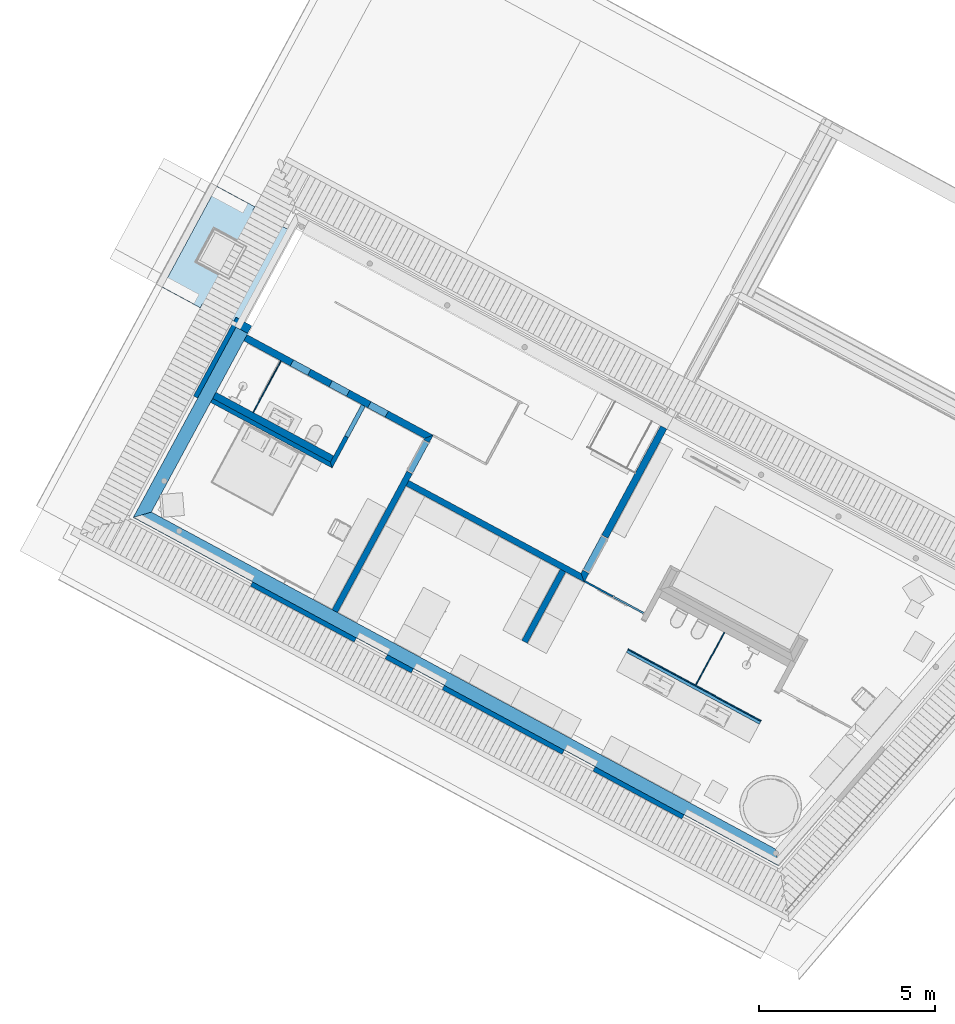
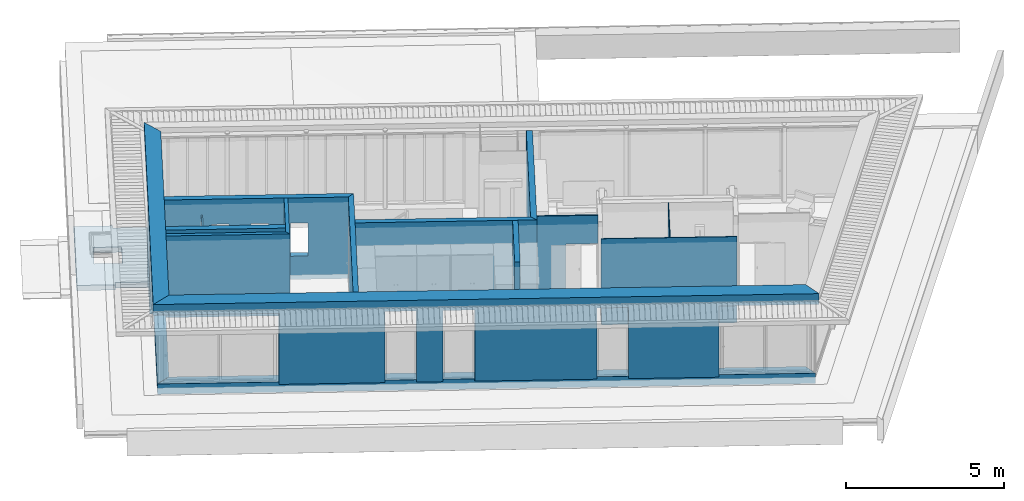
# One storey, part 3 of 41: 17 walls, 1 slab, 15 openings.
"""IFC2X3 building model written with IfcOpenShell, lengths in metres."""

from ifc_helpers import new_model, entity, si_unit, converted_unit, derived_unit, money_unit, direction, frame, origin_with_axes, origin_2d_with_axis, place, context, subcontext, project, spatial, polyline, rectangle, outline, extrude, boolean, faceted_brep, material, layer, layer_set, layer_usage, type_object, element, save


model = new_model("IFC2X3")

# Units and contexts
model_context = context("Model", 3, precision=1e-05, world=origin_with_axes(), true_north=direction((0.0, 1.0)))
body_context = subcontext(model_context, "Body", "Model", "MODEL_VIEW")
ifc_project = project(units=[si_unit("LENGTHUNIT", "METRE"), si_unit("AREAUNIT", "SQUARE_METRE"), si_unit("VOLUMEUNIT", "CUBIC_METRE"), converted_unit("PLANEANGLEUNIT", "DEGREE", entity("IfcPlaneAngleMeasure", 0.0174532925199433), si_unit("PLANEANGLEUNIT", "RADIAN"), dimensions=[0, 0, 0, 0, 0, 0, 0]), money_unit("EUR"), converted_unit("TIMEUNIT", "Year", entity("IfcTimeMeasure", 31556926.0), si_unit("TIMEUNIT", "SECOND"), dimensions=[0, 0, 1, 0, 0, 0, 0]), si_unit("MASSUNIT", "GRAM", prefix="KILO"), si_unit("THERMODYNAMICTEMPERATUREUNIT", "DEGREE_CELSIUS"), si_unit("LUMINOUSINTENSITYUNIT", "LUMEN"), si_unit("ENERGYUNIT", "JOULE", prefix="MEGA"), derived_unit("THERMALCONDUCTANCEUNIT", [(si_unit("POWERUNIT", "WATT"), 1), (si_unit("LENGTHUNIT", "METRE"), -1), (si_unit("THERMODYNAMICTEMPERATUREUNIT", "KELVIN"), -1)]), derived_unit("SPECIFICHEATCAPACITYUNIT", [(si_unit("ENERGYUNIT", "JOULE"), 1), (si_unit("MASSUNIT", "GRAM", prefix="KILO"), -1), (si_unit("THERMODYNAMICTEMPERATUREUNIT", "KELVIN"), -1)]), derived_unit("MASSDENSITYUNIT", [(si_unit("MASSUNIT", "GRAM", prefix="KILO"), 1), (si_unit("VOLUMEUNIT", "CUBIC_METRE"), -1)])], contexts=[model_context])

# Site, building, storey
site_placement = place(None, frame((-3.949935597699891, 1.740105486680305, 0.0), z_axis=(0.0, 0.0, 1.0), x_axis=(0.8799804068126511, -0.475009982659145, 0.0)))
site = spatial("IfcSite", under=ifc_project, at=site_placement, Name="Gelände", CompositionType="ELEMENT")
building_placement = place(site_placement, origin_with_axes())
building = spatial("IfcBuilding", under=site, at=building_placement, Name="Gebäude", CompositionType="ELEMENT")
storey_placement = place(building_placement, frame((0.0, 0.0, 4.55), z_axis=(0.0, 0.0, 1.0), x_axis=(1.0, 0.0, 0.0)))
storey = spatial("IfcBuildingStorey", under=building, at=storey_placement, Name="Staffelgeschoss", CompositionType="ELEMENT", Elevation=4.55)

# Slab
ifc_material_1 = material(Name="_SIWH - Beton, Stahlbeton")
ifc_layer_1 = layer(ifc_material_1, 0.2, ventilated="UNKNOWN")
ifc_layer_set_1 = layer_set([ifc_layer_1], Name="_SIWH - Beton, Stahlbeton 0.2")
ifc_layer_usage_1 = layer_usage(ifc_layer_set_1, "AXIS3", "NEGATIVE", 0.2)
slab_type = type_object("IfcSlabType", Name="_SIWH - Beton, Stahlbeton 200", PredefinedType="FLOOR")
slab_placement = place(storey_placement, frame((2.837485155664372, 7.393058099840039, -0.4500000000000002), z_axis=(0.0, 0.0, 1.0), x_axis=(1.0, 0.0, 0.0)))
element("IfcSlab", 1, at=slab_placement, inside=storey, type_object=slab_type, material=ifc_layer_usage_1, Name="Decke020", PredefinedType="FLOOR", context=body_context, shape_type="CSG", body=[
    boolean("DIFFERENCE", extrude(outline(polyline([(0.0, 0.0), (1.224999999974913, 0.0), (1.224999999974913, 0.1199761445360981), (2.399997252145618, 0.1199761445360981), (2.399997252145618, 3.144741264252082), (1.225004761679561, 3.144741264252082), (1.225004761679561, 3.264741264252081), (4.762797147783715e-06, 3.264741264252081), (0.0, 0.0)])), frame((0.0, 0.0, -0.2), z_axis=(0.0, 0.0, 1.0), x_axis=(1.0, 0.0, 0.0)), (0.0, 0.0, 1.0), 0.2), faceted_brep([(0.5850047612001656, 1.182359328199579, -0.2000000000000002), (0.5850047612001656, 2.082359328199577, -0.2000000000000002), (1.485004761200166, 2.082359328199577, -0.2000000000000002), (1.485004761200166, 1.182359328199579, -0.2000000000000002), (0.5850047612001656, 1.182359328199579, 0.0), (0.5850047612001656, 2.082359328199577, 0.0), (1.485004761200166, 2.082359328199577, 0.0), (1.485004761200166, 1.182359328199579, 0.0)], [[[0, 1, 2, 3]], [[4, 5, 1, 0]], [[5, 6, 2, 1]], [[6, 7, 3, 2]], [[7, 4, 0, 3]], [[4, 7, 6, 5]]])),
])

# Walls
ifc_material_2 = material(Name="_SIWH - MW Kalksandstein")
ifc_layer_2 = layer(ifc_material_2, 0.175, ventilated="UNKNOWN")
ifc_layer_set_2 = layer_set([ifc_layer_2], Name="_SIWH - WI | KS 17,5 | 17,5cm")
ifc_layer_usage_2 = layer_usage(ifc_layer_set_2, "AXIS2", "POSITIVE", 0.0)
wall_type_1 = type_object("IfcWallType", Name="_SIWH - WI | KS 17,5 | 17,5cm 175", PredefinedType="NOTDEFINED")
wall_1_placement = place(storey_placement, frame((16.76849488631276, 3.418060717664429, -0.1900000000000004), z_axis=(0.0, 0.0, 1.0), x_axis=(0.0, 1.0, 0.0)))
element("IfcWallStandardCase", 2, at=wall_1_placement, inside=storey, type_object=wall_type_1, material=ifc_layer_usage_2, Name="I-Wand017", ObjectType="NOTDEFINED", context=body_context, shape_type="SweptSolid", body=[
    extrude(outline(polyline([(0.0, 0.0), (2.300000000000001, 0.0), (2.300000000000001, 0.1750000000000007), (0.0, 0.1750000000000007), (0.0, 0.0)])), origin_with_axes(), (0.0, 0.0, 1.0), 3.154),
])
ifc_layer_usage_3 = layer_usage(ifc_layer_set_2, "AXIS2", "NEGATIVE", 0.0)
wall_2_placement = place(storey_placement, frame((11.43319561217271, 5.893060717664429, -0.1900000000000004), z_axis=(0.0, 0.0, 1.0), x_axis=(1.0, 0.0, 0.0)))
element("IfcWallStandardCase", 3, at=wall_2_placement, inside=storey, type_object=wall_type_1, material=ifc_layer_usage_3, Name="I-Wand018", ObjectType="NOTDEFINED", context=body_context, shape_type="SweptSolid", body=[
    extrude(outline(polyline([(0.1750000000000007, -0.1749999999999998), (5.934297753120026, -0.1749999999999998), (5.734297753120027, 0.0), (0.1750000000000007, 0.0), (0.1750000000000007, -0.1749999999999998)])), origin_with_axes(), (0.0, 0.0, 1.0), 3.154),
])

# Wall, opening
ifc_layer_usage_4 = layer_usage(ifc_layer_set_2, "AXIS2", "POSITIVE", 0.0)
wall_3_placement = place(storey_placement, frame((11.43319561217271, 7.153035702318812, -0.1900000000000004), z_axis=(0.0, 0.0, 1.0), x_axis=(0.0, -1.0, 0.0)))
wall_3 = element("IfcWallStandardCase", 4, at=wall_3_placement, inside=storey, type_object=wall_type_1, material=ifc_layer_usage_4, Name="I-Wand019", ObjectType="NOTDEFINED", context=body_context, shape_type="SweptSolid", body=[
    extrude(outline(polyline([(0.0, 0.0), (5.528048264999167, 0.0), (5.528048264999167, 0.1750000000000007), (-0.2000000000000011, 0.1750000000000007), (0.0, 0.0)])), origin_with_axes(), (0.0, 0.0, 1.0), 3.154),
])
opening_1_placement = place(wall_3_placement, frame((0.5469737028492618, 0.0, 0.1900000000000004), z_axis=(0.0, 0.0, 1.0), x_axis=(1.0, 0.0, 0.0)))
element("IfcOpeningElement", 5, at=opening_1_placement, cuts=wall_3, Name="I-Wand054", context=body_context, shape_type="SweptSolid", body=[
    extrude(rectangle(XDim=1.01, YDim=2.135, at=origin_2d_with_axis()), frame((0.0, 0.1750000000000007, 1.0675), z_axis=(0.0, -1.0, 0.0), x_axis=(-1.0, 0.0, 0.0)), (0.0, 0.0, 1.0), 0.5249999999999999),
])

ifc_material_3 = material(Name="_SIWH - Gipskarton")
ifc_layer_3 = layer(ifc_material_3, 0.0125, ventilated="UNKNOWN")
ifc_layer_4 = layer(ifc_material_3, 0.0125, ventilated="UNKNOWN")
ifc_material_4 = material(Name="_SIWH - Dämmung, weich Mineralwolle")
ifc_layer_5 = layer(ifc_material_4, 0.075, ventilated="UNKNOWN")
ifc_layer_6 = layer(ifc_material_3, 0.0125, ventilated="UNKNOWN")
ifc_layer_7 = layer(ifc_material_3, 0.0125, ventilated="UNKNOWN")
ifc_layer_set_3 = layer_set([ifc_layer_3, ifc_layer_4, ifc_layer_5, ifc_layer_6, ifc_layer_7], Name="_SIWH - WI | GK 2-lagig | 12,5cm")
ifc_layer_usage_5 = layer_usage(ifc_layer_set_3, "AXIS2", "NEGATIVE", 0.125)
wall_type_2 = type_object("IfcWallType", Name="_SIWH - WI | GK 2-lagig | 12,5cm 125", PredefinedType="NOTDEFINED")
wall_4_placement = place(storey_placement, frame((9.522895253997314, 5.168060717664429, -0.1899999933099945), z_axis=(0.0, 0.0, 1.0), x_axis=(0.0, 1.0, 0.0)))
wall_4 = element("IfcWallStandardCase", 6, at=wall_4_placement, inside=storey, type_object=wall_type_2, material=ifc_layer_usage_5, Name="I-Wand040", ObjectType="NOTDEFINED", context=body_context, shape_type="SweptSolid", body=[
    extrude(outline(polyline([(0.0, 0.0), (1.984974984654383, 0.0), (1.984974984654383, 0.125), (0.125, 0.125), (0.0, 0.0)])), origin_with_axes(), (0.0, 0.0, 1.0), 3.153999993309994),
])
opening_2_placement = place(wall_4_placement, frame((1.479974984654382, 0.0, 0.1899999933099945), z_axis=(0.0, 0.0, 1.0), x_axis=(1.0, 0.0, 0.0)))
element("IfcOpeningElement", 7, at=opening_2_placement, cuts=wall_4, Name="I-Wand046", context=body_context, shape_type="SweptSolid", body=[
    extrude(rectangle(XDim=1.01, YDim=2.135, at=origin_2d_with_axis()), frame((0.0, -0.125, 1.0675), z_axis=(0.0, -1.0, 0.0), x_axis=(1.0, 0.0, 0.0)), (0.0, 0.0, -1.0), 0.375),
])

# Wall
ifc_layer_usage_6 = layer_usage(ifc_layer_set_3, "AXIS2", "NEGATIVE", 0.125)
wall_5_placement = place(storey_placement, frame((5.597480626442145, 5.168060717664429, -0.1899999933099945), z_axis=(0.0, 0.0, 1.0), x_axis=(1.0, 0.0, 0.0)))
element("IfcWallStandardCase", 8, at=wall_5_placement, inside=storey, type_object=wall_type_2, material=ifc_layer_usage_6, Name="I-Wand041", ObjectType="NOTDEFINED", context=body_context, shape_type="SweptSolid", body=[
    extrude(outline(polyline([(0.0, 0.0), (3.925414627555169, 0.0), (3.800414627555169, 0.125), (0.0, 0.125), (0.0, 0.0)])), origin_with_axes(), (0.0, 0.0, 1.0), 3.153999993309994),
])

# Wall, openings
ifc_material_5 = material(Name="_SIWH - MW Vormauerziegel")
ifc_layer_8 = layer(ifc_material_5, 0.115, ventilated="UNKNOWN")
ifc_material_6 = material(Name="_SIWH - Luftschicht vertikal")
ifc_layer_9 = layer(ifc_material_6, 0.02, ventilated="UNKNOWN")
ifc_layer_10 = layer(ifc_material_4, 0.18, ventilated="UNKNOWN")
ifc_layer_11 = layer(ifc_material_1, 0.2, ventilated="UNKNOWN")
ifc_layer_set_4 = layer_set([ifc_layer_8, ifc_layer_9, ifc_layer_10, ifc_layer_11], Name="_SIWH - WA | Stb. 20+WD 18+LS 2+Verblender 11,5 | 51,5cm")
ifc_layer_usage_7 = layer_usage(ifc_layer_set_4, "AXIS2", "POSITIVE", -0.315)
wall_type_3 = type_object("IfcWallType", Name="_SIWH - WA | Stb. 20+WD 18+LS 2+Verblender 11,5 | 51,5cm 515", PredefinedType="NOTDEFINED")
wall_6_placement = place(storey_placement, frame((5.397480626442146, 10.85780061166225, 0.0), z_axis=(0.0, 0.0, 1.0), x_axis=(0.0, -1.0, 0.0)))
wall_6 = element("IfcWallStandardCase", 9, at=wall_6_placement, inside=storey, type_object=wall_type_3, material=ifc_layer_usage_7, Name="A-Wand045", ObjectType="NOTDEFINED", context=body_context, shape_type="SweptSolid", body=[
    extrude(outline(polyline([(-0.3150000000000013, -0.3150000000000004), (9.7478131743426, -0.3150000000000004), (9.2328131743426, 0.1999999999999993), (0.2000000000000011, 0.1999999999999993), (-0.3150000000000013, -0.3150000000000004)])), origin_with_axes(), (0.0, 0.0, 1.0), 3.163999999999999),
])
opening_3_placement = place(wall_6_placement, frame((7.497806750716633, 0.0, 0.0), z_axis=(0.0, 0.0, 1.0), x_axis=(1.0, 0.0, 0.0)))
element("IfcOpeningElement", 10, at=opening_3_placement, cuts=wall_6, Name="Fenster-003", context=body_context, shape_type="Brep", body=[
    faceted_brep([(1.810006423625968, 0.125, 2.749999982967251), (-1.74, 0.125, 2.749999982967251), (-1.74, -0.3160000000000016, 2.749999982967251), (2.25, -0.3160000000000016, 2.749999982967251), (2.25, -0.3149935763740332, 2.749999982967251), (1.734006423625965, 0.2010000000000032, 2.749999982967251), (-1.74, 0.2010000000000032, 2.749999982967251), (-1.74, 0.1249999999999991, 0.0), (-1.74, -0.3160000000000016, 0.0), (2.25, -0.3160000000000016, 0.0), (2.25, -0.3149935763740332, 0.0), (1.810006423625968, 0.125, 0.0), (1.734006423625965, 0.2010000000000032, 0.0), (-1.74, 0.2010000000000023, 0.0)], [[[0, 1, 2, 3, 4]], [[1, 0, 5, 6]], [[1, 7, 8, 2]], [[2, 8, 9, 3]], [[4, 3, 9, 10]], [[4, 10, 11, 12, 5, 0]], [[12, 13, 6, 5]], [[7, 1, 6, 13]], [[7, 11, 10, 9, 8]], [[11, 7, 13, 12]]]),
])
opening_4_placement = place(wall_6_placement, frame((1.644848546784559, 0.0, 0.0), z_axis=(0.0, 0.0, 1.0), x_axis=(1.0, 0.0, 0.0)))
element("IfcOpeningElement", 11, at=opening_4_placement, cuts=wall_6, Name="Fenster-003", context=body_context, shape_type="Brep", body=[
    faceted_brep([(1.574848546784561, 0.0, 2.699999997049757), (-1.644848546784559, 0.0, 2.699999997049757), (-1.95984854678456, -0.3150000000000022, 2.699999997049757), (-1.95984854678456, -0.3160000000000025, 2.699999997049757), (1.574848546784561, -0.3160000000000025, 2.699999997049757), (1.574848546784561, 0.2010000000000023, 2.699999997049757), (-1.443848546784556, 0.2010000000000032, 2.699999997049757), (-1.443848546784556, 0.2010000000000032, 0.0), (-1.644848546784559, 0.0, 0.0), (-1.95984854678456, -0.3150000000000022, 0.0), (-1.95984854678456, -0.3160000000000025, 0.0), (1.574848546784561, -0.3160000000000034, 0.0), (1.574848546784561, 0.0, 0.0), (1.574848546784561, 0.2010000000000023, 0.0)], [[[0, 1, 2, 3, 4]], [[1, 0, 5, 6]], [[2, 1, 6, 7, 8, 9]], [[9, 10, 3, 2]], [[3, 10, 11, 4]], [[12, 0, 4, 11]], [[0, 12, 13, 5]], [[5, 13, 7, 6]], [[12, 8, 7, 13]], [[8, 12, 11, 10, 9]]]),
])

ifc_layer_usage_8 = layer_usage(ifc_layer_set_4, "AXIS2", "POSITIVE", -0.315)
wall_7_placement = place(storey_placement, frame((5.397480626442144, 1.424987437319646, -2.47253595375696e-09), z_axis=(0.0, 0.0, 1.0), x_axis=(1.0, 0.0, 0.0)))
wall_7 = element("IfcWallStandardCase", 12, at=wall_7_placement, inside=storey, type_object=wall_type_3, material=ifc_layer_usage_8, Name="A-Wand046", ObjectType="NOTDEFINED", context=body_context, shape_type="SweptSolid", body=[
    extrude(outline(polyline([(-0.3149999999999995, -0.3150000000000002), (20.77227143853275, -0.3150000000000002), (20.35761154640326, 0.2), (0.2000000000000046, 0.2), (-0.3149999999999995, -0.3150000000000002)])), origin_with_axes(), (0.0, 0.0, 1.0), 3.164000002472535),
])
opening_5_placement = place(wall_7_placement, frame((1.715000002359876, 0.0, -5.416190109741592e-07), z_axis=(0.0, 0.0, 1.0), x_axis=(1.0, 0.0, 0.0)))
element("IfcOpeningElement", 13, at=opening_5_placement, cuts=wall_7, Name="Fenster-003", context=body_context, shape_type="Brep", body=[
    faceted_brep([(1.960000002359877, 0.2010000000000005, 2.750001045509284), (1.960000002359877, 0.2010000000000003, 5.416190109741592e-07), (-1.514000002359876, 0.2009999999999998, 5.416190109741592e-07), (-1.514000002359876, 0.2010000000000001, 2.750001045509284), (1.960000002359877, -0.3160000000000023, 2.750001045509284), (1.960000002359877, -0.3160000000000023, 5.416190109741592e-07), (-2.030000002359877, -0.3160000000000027, 5.416190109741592e-07), (-2.030000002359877, -0.3149999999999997, 5.416190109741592e-07), (-2.030000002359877, -0.3149999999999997, 2.750001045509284), (-2.030000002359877, -0.3160000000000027, 2.750001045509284)], [[[0, 1, 2, 3]], [[4, 5, 1, 0]], [[5, 6, 7, 2, 1]], [[2, 7, 8, 3]], [[9, 4, 0, 3, 8]], [[6, 5, 4, 9]], [[6, 9, 8, 7]]]),
])
opening_6_placement = place(wall_7_placement, frame((9.367511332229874, 0.0, -4.08186577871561e-08), z_axis=(0.0, 0.0, 1.0), x_axis=(1.0, 0.0, 0.0)))
element("IfcOpeningElement", 14, at=opening_6_placement, cuts=wall_7, Name="Fenster-003", context=body_context, shape_type="SweptSolid", body=[
    extrude(rectangle(XDim=1.0, YDim=2.75, at=origin_2d_with_axis()), frame((0.0, 0.5150000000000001, 1.375000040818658), z_axis=(0.0, 1.0, 0.0), x_axis=(-1.0, 0.0, 0.0)), (0.0, 0.0, -1.0), 1.545),
])
opening_7_placement = place(wall_7_placement, frame((19.09888572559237, 0.0, 2.47253595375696e-09), z_axis=(0.0, 0.0, 1.0), x_axis=(1.0, 0.0, 0.0)))
element("IfcOpeningElement", 15, at=opening_7_placement, cuts=wall_7, Name="Eckfenster-008", context=body_context, shape_type="Brep", body=[
    faceted_brep([(1.673385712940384, -0.3149999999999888, 2.749999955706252), (1.673385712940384, -0.3160000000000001, 2.749999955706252), (1.673385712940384, -0.3160000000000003, -2.47253595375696e-09), (1.673385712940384, -0.3149999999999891, -2.47253595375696e-09), (1.572740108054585, -0.1899999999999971, 2.749999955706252), (-1.491525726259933, -0.1899999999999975, 2.749999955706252), (-1.491525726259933, -0.3160000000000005, 2.749999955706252), (-1.491525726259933, -0.3160000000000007, -2.47253595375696e-09), (-1.491525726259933, -0.1899999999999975, -2.47253595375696e-09), (1.572740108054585, -0.1899999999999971, -2.47253595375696e-09), (1.257920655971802, 0.2010000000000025, -2.47253595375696e-09), (1.257920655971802, 0.2010000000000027, 2.749999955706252), (-1.491525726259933, 0.2010000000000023, 2.749999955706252), (-1.491525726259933, 0.2010000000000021, -2.47253595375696e-09)], [[[0, 1, 2, 3]], [[4, 5, 6, 1, 0]], [[6, 7, 2, 1]], [[8, 9, 3, 2, 7]], [[0, 3, 9, 10, 11, 4]], [[5, 4, 11, 12]], [[5, 8, 7, 6]], [[9, 8, 13, 10]], [[10, 13, 12, 11]], [[8, 5, 12, 13]]]),
])
opening_8_placement = place(wall_7_placement, frame((14.23738018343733, 0.0, -4.08186577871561e-08), z_axis=(0.0, 0.0, 1.0), x_axis=(1.0, 0.0, 0.0)))
element("IfcOpeningElement", 16, at=opening_8_placement, cuts=wall_7, Name="Fenster-003", context=body_context, shape_type="SweptSolid", body=[
    extrude(rectangle(XDim=1.0, YDim=2.75, at=origin_2d_with_axis()), frame((0.0, 0.5150000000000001, 1.375000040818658), z_axis=(0.0, 1.0, 0.0), x_axis=(-1.0, 0.0, 0.0)), (0.0, 0.0, -1.0), 1.545),
])
opening_9_placement = place(wall_7_placement, frame((7.526723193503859, 0.0, -4.08186577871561e-08), z_axis=(0.0, 0.0, 1.0), x_axis=(1.0, 0.0, 0.0)))
element("IfcOpeningElement", 17, at=opening_9_placement, cuts=wall_7, Name="Fenster-003", context=body_context, shape_type="SweptSolid", body=[
    extrude(rectangle(XDim=1.0, YDim=2.75, at=origin_2d_with_axis()), frame((0.0, 0.5150000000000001, 1.375000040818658), z_axis=(0.0, 1.0, 0.0), x_axis=(-1.0, 0.0, 0.0)), (0.0, 0.0, -1.0), 1.545),
])

# Wall, opening
ifc_layer_12 = layer(ifc_material_1, 0.2, ventilated="UNKNOWN")
ifc_layer_set_5 = layer_set([ifc_layer_12], Name="_SIWH - WI | Stb. 20 | 20cm")
ifc_layer_usage_9 = layer_usage(ifc_layer_set_5, "AXIS2", "POSITIVE", 0.0)
wall_type_4 = type_object("IfcWallType", Name="_SIWH - WI | Stb. 20 | 20cm 200", PredefinedType="NOTDEFINED")
wall_8_placement = place(storey_placement, frame((17.16749336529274, 10.65780061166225, -0.1899999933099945), z_axis=(0.0, 0.0, 1.0), x_axis=(0.0, -1.0, 0.0)))
wall_8 = element("IfcWallStandardCase", 18, at=wall_8_placement, inside=storey, type_object=wall_type_4, material=ifc_layer_usage_9, Name="I-Wand014", ObjectType="NOTDEFINED", context=body_context, shape_type="SweptSolid", body=[
    extrude(outline(polyline([(0.0, 0.0), (4.764739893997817, 0.0), (4.939739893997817, 0.1999999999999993), (0.0, 0.1999999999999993), (0.0, 0.0)])), origin_with_axes(), (0.0, 0.0, 1.0), 3.153999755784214),
])
opening_10_placement = place(wall_8_placement, frame((4.092261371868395, 0.0, 0.1899999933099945), z_axis=(0.0, 0.0, 1.0), x_axis=(1.0, 0.0, 0.0)))
element("IfcOpeningElement", 19, at=opening_10_placement, cuts=wall_8, Name="I-Wand047", context=body_context, shape_type="SweptSolid", body=[
    extrude(rectangle(XDim=1.135, YDim=2.135, at=origin_2d_with_axis()), frame((0.0, -0.1999999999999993, 1.0675), z_axis=(0.0, 1.0, 0.0), x_axis=(1.0, 0.0, 0.0)), (0.0, 0.0, 1.0), 0.6000000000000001),
])

# Wall, openings
ifc_layer_usage_10 = layer_usage(ifc_layer_set_5, "AXIS2", "NEGATIVE", 0.0)
wall_9_placement = place(storey_placement, frame((11.43319561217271, 7.153035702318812, -0.1899999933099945), z_axis=(0.0, 0.0, 1.0), x_axis=(-1.0, 0.0, 0.0)))
wall_9 = element("IfcWallStandardCase", 20, at=wall_9_placement, inside=storey, type_object=wall_type_4, material=ifc_layer_usage_10, Name="I-Wand009", ObjectType="NOTDEFINED", context=body_context, shape_type="SweptSolid", body=[
    extrude(outline(polyline([(-0.1750000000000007, -0.2000000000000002), (5.835714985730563, -0.2000000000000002), (5.835714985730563, 0.0), (0.0, 0.0), (-0.1750000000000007, -0.2000000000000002)])), origin_with_axes(), (0.0, 0.0, 1.0), 3.153999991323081),
])
opening_11_placement = place(wall_9_placement, frame((2.803214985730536, 0.0, 0.9000000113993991), z_axis=(0.0, 0.0, 1.0), x_axis=(1.0, 0.0, 0.0)))
element("IfcOpeningElement", 21, at=opening_11_placement, cuts=wall_9, Name="I-Wand001", context=body_context, shape_type="SweptSolid", body=[
    extrude(rectangle(XDim=0.5650000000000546, YDim=1.2849999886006, at=origin_2d_with_axis()), frame((0.0, -0.07500000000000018, 0.6424999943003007), z_axis=(0.0, -1.0, 0.0), x_axis=(-1.0, 0.0, 0.0)), (0.0, 0.0, 1.0), 0.325),
    extrude(rectangle(XDim=0.5650000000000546, YDim=1.2849999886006, at=origin_2d_with_axis()), frame((0.0, -0.07500000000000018, 0.6424999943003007), z_axis=(0.0, 1.0, 0.0), x_axis=(-1.0, 0.0, 0.0)), (0.0, 0.0, 1.0), 0.275),
])
opening_12_placement = place(wall_9_placement, frame((4.053214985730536, 0.0, 0.9000000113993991), z_axis=(0.0, 0.0, 1.0), x_axis=(1.0, 0.0, 0.0)))
element("IfcOpeningElement", 22, at=opening_12_placement, cuts=wall_9, Name="I-Wand000", context=body_context, shape_type="SweptSolid", body=[
    extrude(rectangle(XDim=0.5650000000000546, YDim=1.2849999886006, at=origin_2d_with_axis()), frame((0.0, -0.07500000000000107, 0.6424999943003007), z_axis=(0.0, -1.0, 0.0), x_axis=(-1.0, 0.0, 0.0)), (0.0, 0.0, 1.0), 0.325),
    extrude(rectangle(XDim=0.5650000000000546, YDim=1.2849999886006, at=origin_2d_with_axis()), frame((0.0, -0.07500000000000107, 0.6424999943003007), z_axis=(0.0, 1.0, 0.0), x_axis=(-1.0, 0.0, 0.0)), (0.0, 0.0, 1.0), 0.275),
])
opening_13_placement = place(wall_9_placement, frame((1.553214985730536, 0.0, 0.9000000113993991), z_axis=(0.0, 0.0, 1.0), x_axis=(1.0, 0.0, 0.0)))
element("IfcOpeningElement", 23, at=opening_13_placement, cuts=wall_9, Name="I-Wand002", context=body_context, shape_type="SweptSolid", body=[
    extrude(rectangle(XDim=0.5650000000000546, YDim=1.2849999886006, at=origin_2d_with_axis()), frame((0.0, -0.07500000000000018, 0.6424999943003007), z_axis=(0.0, -1.0, 0.0), x_axis=(-1.0, 0.0, 0.0)), (0.0, 0.0, 1.0), 0.325),
    extrude(rectangle(XDim=0.5650000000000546, YDim=1.2849999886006, at=origin_2d_with_axis()), frame((0.0, -0.07500000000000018, 0.6424999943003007), z_axis=(0.0, 1.0, 0.0), x_axis=(-1.0, 0.0, 0.0)), (0.0, 0.0, 1.0), 0.275),
])

# Walls
ifc_layer_13 = layer(ifc_material_3, 0.0125, ventilated="UNKNOWN")
ifc_layer_14 = layer(ifc_material_3, 0.0125, ventilated="UNKNOWN")
ifc_material_7 = material(Name="_SIWH - Installationswand, raumhoch")
ifc_layer_15 = layer(ifc_material_7, 0.175, ventilated="UNKNOWN")
ifc_layer_set_6 = layer_set([ifc_layer_13, ifc_layer_14, ifc_layer_15], Name="_SIWH - WI | Vorsatz-GK 2-lagig | 20cm")
ifc_layer_usage_11 = layer_usage(ifc_layer_set_6, "AXIS2", "POSITIVE", -0.2)
wall_type_5 = type_object("IfcWallType", Name="_SIWH - WI | Vorsatz-GK 2-lagig | 20cm 200", PredefinedType="PLUMBINGWALL")
wall_10_placement = place(storey_placement, frame((9.522895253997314, 5.293036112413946, -0.1899999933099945), z_axis=(0.0, 0.0, 1.0), x_axis=(-0.9999999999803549, 6.268191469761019e-06, 0.0)))
element("IfcWallStandardCase", 24, at=wall_10_placement, inside=storey, type_object=wall_type_5, material=ifc_layer_usage_11, Name="L-Wand023", ObjectType="PLUMBINGWALL", context=body_context, shape_type="SweptSolid", body=[
    extrude(outline(polyline([(0.1250012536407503, -0.1999999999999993), (3.925414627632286, -0.2000000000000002), (3.925414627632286, 0.0), (0.1250000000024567, 0.0), (0.1250012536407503, -0.1999999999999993)])), origin_with_axes(), (0.0, 0.0, 1.0), 3.294999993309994),
])
ifc_layer_16 = layer(ifc_material_4, 0.18, ventilated="UNKNOWN")
ifc_layer_17 = layer(ifc_material_1, 0.2, ventilated="UNKNOWN")
ifc_layer_set_7 = layer_set([ifc_layer_16, ifc_layer_17], Name="_SIWH - WA | Stb. 20+WD 18 | 38cm")
ifc_layer_usage_12 = layer_usage(ifc_layer_set_7, "AXIS2", "POSITIVE", -0.18)
wall_type_6 = type_object("IfcWallType", Name="_SIWH - WA | Stb. 20+WD 18 | 38cm 380", PredefinedType="NOTDEFINED")
wall_11_placement = place(storey_placement, frame((5.397480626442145, 7.393034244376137, -0.3999999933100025), z_axis=(0.0, 0.0, 1.0), x_axis=(0.0, -1.0, 0.0)))
element("IfcWallStandardCase", 25, at=wall_11_placement, inside=storey, type_object=wall_type_6, material=ifc_layer_usage_12, Name="A-Wand047", ObjectType="NOTDEFINED", context=body_context, shape_type="SweptSolid", body=[
    extrude(outline(polyline([(0.0, -0.1799999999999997), (6.148046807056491, -0.1799999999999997), (5.768046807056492, 0.2000000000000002), (0.0, 0.2000000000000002), (0.0, -0.1799999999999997)])), origin_with_axes(), (0.0, 0.0, 1.0), 0.3999999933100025),
])
ifc_layer_usage_13 = layer_usage(ifc_layer_set_7, "AXIS2", "POSITIVE", -0.18)
wall_12_placement = place(storey_placement, frame((5.397480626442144, 1.424987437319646, -0.3999999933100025), z_axis=(0.0, 0.0, 1.0), x_axis=(1.0, 0.0, 0.0)))
element("IfcWallStandardCase", 26, at=wall_12_placement, inside=storey, type_object=wall_type_6, material=ifc_layer_usage_13, Name="A-Wand048", ObjectType="NOTDEFINED", context=body_context, shape_type="SweptSolid", body=[
    extrude(outline(polyline([(-0.1800000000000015, -0.1799999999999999), (20.66357419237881, -0.1799999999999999), (20.35761155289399, 0.2), (0.2000000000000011, 0.2), (-0.1800000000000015, -0.1799999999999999)])), origin_with_axes(), (0.0, 0.0, 1.0), 0.3999999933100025),
])

# Wall, opening
ifc_material_8 = material(Name="Glas, Normalglas-50% durchlässig")
ifc_layer_18 = layer(ifc_material_8, 0.03, ventilated="UNKNOWN")
ifc_layer_set_8 = layer_set([ifc_layer_18], Name="Glas, Normalglas-50% durchlässig 0.03")
ifc_layer_usage_14 = layer_usage(ifc_layer_set_8, "AXIS2", "NEGATIVE", 0.0)
wall_type_7 = type_object("IfcWallType", Name="Glas, Normalglas-50% durchlässig 30", PredefinedType="USERDEFINED")
wall_13_placement = place(storey_placement, frame((6.782480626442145, 5.493065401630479, -0.2999999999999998), z_axis=(0.0, 0.0, 1.0), x_axis=(0.0, 1.0, 0.0)))
wall_13 = element("IfcWallStandardCase", 27, at=wall_13_placement, inside=storey, type_object=wall_type_7, material=ifc_layer_usage_14, Name="L-Wand033", ObjectType="PARTITIONING", context=body_context, shape_type="SweptSolid", body=[
    extrude(outline(polyline([(0.0, -0.03000000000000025), (1.659970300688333, -0.03000000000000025), (1.659970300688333, 0.0), (0.0, 0.0), (0.0, -0.03000000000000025)])), origin_with_axes(), (0.0, 0.0, 1.0), 2.654999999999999),
])
opening_14_placement = place(wall_13_placement, frame((1.279970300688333, 0.0, 0.2999999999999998), z_axis=(0.0, 0.0, 1.0), x_axis=(1.0, 0.0, 0.0)))
element("IfcOpeningElement", 28, at=opening_14_placement, cuts=wall_13, Name="Tür-017", context=body_context, shape_type="Brep", body=[
    faceted_brep([(-0.3799999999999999, 0.001000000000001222, 2.105), (-0.3799999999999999, 0.0, 2.105), (-0.3799999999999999, 0.0, 0.0), (-0.3799999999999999, -0.03100000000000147, 0.0), (-0.3799999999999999, -0.03100000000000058, 2.135), (-0.3799999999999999, 0.001000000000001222, 2.135), (-0.3799999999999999, 0.03000000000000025, 2.105), (-1.28, 0.03000000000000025, 2.105), (-1.28, 0.0, 2.105), (-1.28, 0.0, 0.0), (-0.3799999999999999, 0.001000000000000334, 0.0), (0.3799999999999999, 0.001000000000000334, 0.0), (0.3799999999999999, -0.03100000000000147, 0.0), (0.3799999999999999, -0.03100000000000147, 2.135), (0.3799999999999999, 0.001000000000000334, 2.135), (-0.3799999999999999, 0.03000000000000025, 0.0), (-1.28, 0.03000000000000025, 0.0)], [[[0, 1, 2, 3, 4, 5]], [[1, 0, 6, 7, 8]], [[2, 1, 8, 9]], [[2, 10, 11, 12, 3]], [[4, 3, 12, 13]], [[14, 5, 4, 13]], [[10, 0, 5, 14, 11]], [[0, 10, 15, 6]], [[7, 6, 15, 16]], [[8, 7, 16, 9]], [[10, 2, 9, 16, 15]], [[11, 14, 13, 12]]]),
])

# Walls
ifc_material_9 = material(Name="_SIWH - MW Kalksandstein, nichttragend")
ifc_layer_19 = layer(ifc_material_9, 0.12, ventilated="UNKNOWN")
ifc_layer_set_9 = layer_set([ifc_layer_19], Name="_SIWH - MW Kalksandstein, nichttragend 0.12")
ifc_layer_usage_15 = layer_usage(ifc_layer_set_9, "AXIS2", "POSITIVE", 0.0)
wall_type_8 = type_object("IfcWallType", Name="_SIWH - MW Kalksandstein, nichttragend 120", PredefinedType="NOTDEFINED")
wall_14_placement = place(storey_placement, frame((19.3694197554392, 4.527100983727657, -0.2999999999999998), z_axis=(0.0, 0.0, 1.0), x_axis=(0.9999999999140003, 1.311485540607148e-05, 0.0)))
element("IfcWallStandardCase", 29, at=wall_14_placement, inside=storey, type_object=wall_type_8, material=ifc_layer_usage_15, Name="I-Wand044", ObjectType="NOTDEFINED", context=body_context, shape_type="SweptSolid", body=[
    extrude(outline(polyline([(0.0, 0.0), (4.292651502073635, 0.0), (4.292651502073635, 0.120000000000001), (0.0, 0.1200000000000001), (0.0, 0.0)])), origin_with_axes(), (0.0, 0.0, 1.0), 1.149999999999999),
])
ifc_material_10 = material(Name="_SIWH - Glas, Normalglas")
ifc_layer_20 = layer(ifc_material_10, 0.03, ventilated="UNKNOWN")
ifc_layer_set_10 = layer_set([ifc_layer_20], Name="_SIWH - Glas, Normalglas 0.03")
ifc_layer_usage_16 = layer_usage(ifc_layer_set_10, "AXIS2", "NEGATIVE", 0.0)
wall_type_9 = type_object("IfcWallType", Name="_SIWH - Glas, Normalglas 30", PredefinedType="USERDEFINED")
wall_15_placement = place(storey_placement, frame((19.36941818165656, 4.647100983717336, 0.8499999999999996), z_axis=(0.0, 0.0, 1.0), x_axis=(0.9999999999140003, 1.311485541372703e-05, 0.0)))
element("IfcWallStandardCase", 30, at=wall_15_placement, inside=storey, type_object=wall_type_9, material=ifc_layer_usage_16, Name="L-Wand047", ObjectType="PARTITIONING", context=body_context, shape_type="SweptSolid", body=[
    extrude(outline(polyline([(0.0, -0.02999999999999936), (4.292651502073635, -0.03000000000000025), (4.292651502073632, 0.0), (0.0, 0.0), (0.0, -0.02999999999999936)])), origin_with_axes(), (0.0, 0.0, 1.0), 2.114),
])
ifc_layer_usage_17 = layer_usage(ifc_layer_set_10, "AXIS2", "POSITIVE", -0.015)
wall_16_placement = place(storey_placement, frame((21.54787388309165, 4.647129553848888, 0.0), z_axis=(0.0, 0.0, 1.0), x_axis=(-1.055825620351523e-05, 0.9999999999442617, 0.0)))
element("IfcWallStandardCase", 31, at=wall_16_placement, inside=storey, type_object=wall_type_9, material=ifc_layer_usage_17, Name="L-Wand046", ObjectType="PARTITIONING", context=body_context, shape_type="SweptSolid", body=[
    extrude(outline(polyline([(3.834898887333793e-08, -0.01500000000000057), (1.705019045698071, -0.01500000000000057), (1.705019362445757, 0.01499999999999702), (-3.834898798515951e-08, 0.01499999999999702), (3.834898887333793e-08, -0.01500000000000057)])), origin_with_axes(), (0.0, 0.0, 1.0), 3.105),
])

# Wall, opening
ifc_material_11 = material(Name="ALLGEMEIN - BAUTEIL")
ifc_layer_21 = layer(ifc_material_11, 0.05, ventilated="UNKNOWN")
ifc_layer_set_11 = layer_set([ifc_layer_21], Name="ALLGEMEIN - BAUTEIL 0.05")
ifc_layer_usage_18 = layer_usage(ifc_layer_set_11, "AXIS2", "POSITIVE", 0.0)
wall_type_10 = type_object("IfcWallType", Name="ALLGEMEIN - BAUTEIL 50", PredefinedType="NOTDEFINED")
wall_17_placement = place(storey_placement, frame((17.36749336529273, 5.71806071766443, -0.2999999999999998), z_axis=(0.0, 0.0, 1.0), x_axis=(1.0, 0.0, 0.0)))
wall_17 = element("IfcWallStandardCase", 32, at=wall_17_placement, inside=storey, type_object=wall_type_10, material=ifc_layer_usage_18, Name="I-Wand034", ObjectType="NOTDEFINED", context=body_context, shape_type="SweptSolid", body=[
    extrude(outline(polyline([(0.0, 0.0), (1.925039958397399, 0.0), (1.925039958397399, 0.04999999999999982), (0.0, 0.04999999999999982), (0.0, 0.0)])), origin_with_axes(), (0.0, 0.0, 1.0), 3.404999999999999),
])
opening_15_placement = place(wall_17_placement, frame((1.4200399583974, 0.0, 0.2999999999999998), z_axis=(0.0, 0.0, 1.0), x_axis=(1.0, 0.0, 0.0)))
element("IfcOpeningElement", 33, at=opening_15_placement, cuts=wall_17, Name="I-Wand056", context=body_context, shape_type="Brep", body=[
    faceted_brep([(-0.504999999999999, 0.0, 0.0), (-0.504999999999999, 0.0, 1.98), (-0.504999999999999, -0.001000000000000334, 1.98), (-0.504999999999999, -0.001000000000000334, 2.01), (-0.504999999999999, 0.05100000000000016, 2.01), (-0.504999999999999, 0.05100000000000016, 0.0), (-1.515000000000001, 0.0, 0.0), (-1.515000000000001, 0.0, 1.98), (-1.515000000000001, -0.03000000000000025, 1.98), (-0.504999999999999, -0.03000000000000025, 1.98), (-0.504999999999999, -0.001000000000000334, 0.0), (0.504999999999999, -0.001000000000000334, 0.0), (0.504999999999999, -0.001000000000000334, 2.01), (0.504999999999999, 0.05100000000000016, 2.01), (0.504999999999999, 0.05100000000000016, 0.0), (-0.504999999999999, -0.03000000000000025, 0.0), (-1.515000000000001, -0.03000000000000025, 0.0)], [[[0, 1, 2, 3, 4, 5]], [[1, 0, 6, 7]], [[2, 1, 7, 8, 9]], [[2, 10, 11, 12, 3]], [[13, 4, 3, 12]], [[14, 5, 4, 13]], [[10, 0, 5, 14, 11]], [[0, 10, 15, 16, 6]], [[8, 7, 6, 16]], [[9, 8, 16, 15]], [[10, 2, 9, 15]], [[14, 13, 12, 11]]]),
])

save(model, "model.ifc")
